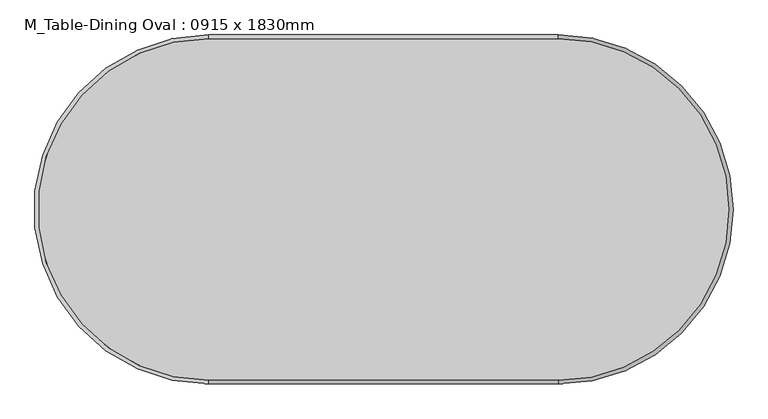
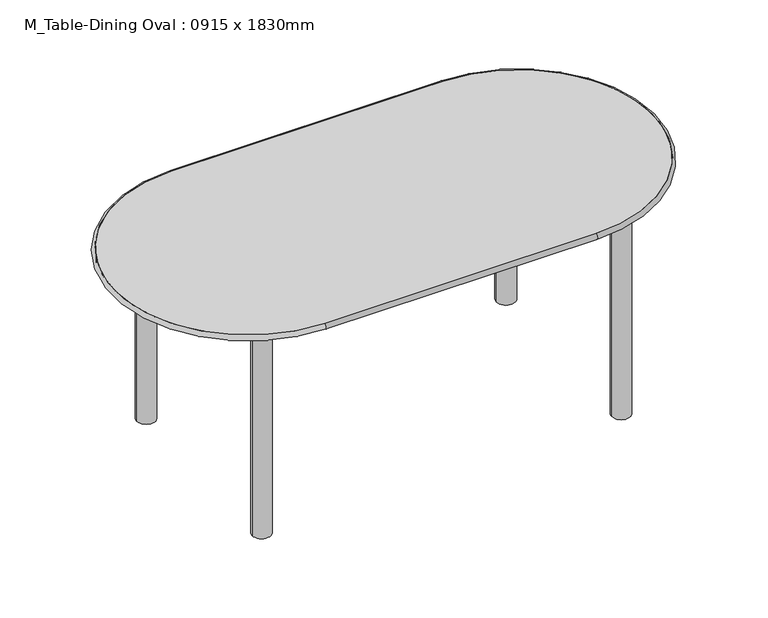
"""IFC4 building model written with IfcOpenShell, lengths in millimetres: furniture geometry, M_Table-Dining Oval : 0915 x 1830mm."""

import ifcopenshell
import ifcopenshell.guid

model = None  # the IFC model being written
_history = None  # IfcOwnerHistory: only IFC2X3 demands one
_inside = {}  # id of a spatial element -> (the spatial element, [elements in it])
_under = {}  # id of a project, library or spatial element -> (it, [spatial elements below it])
_declared = {}  # id of a project -> (the project, [libraries it declares])
_typed = {}  # id of a type object -> (the type object, [elements of that type])
_made_of = {}  # id of a material, layer set ... -> (it, [elements and type objects made of it])


def new_model(schema):
    """Start an empty IFC model of exactly this schema.

    Asked for "IFC4X3", IfcOpenShell would pick the latest addendum, in which some entities
    have other attributes; the version numbers below select the first issue.
    IFC2X3 requires an IfcOwnerHistory on every rooted entity: one is made here for all.
    """
    global model, _history
    if schema == "IFC4X3":
        model = ifcopenshell.file(schema_version=(4, 3, 0, 0))
    else:
        model = ifcopenshell.file(schema=schema)
    _inside.clear()
    _under.clear()
    _declared.clear()
    _typed.clear()
    _made_of.clear()
    _history = None
    if model.schema == "IFC2X3":
        org = make("IfcOrganization", Name="unknown")
        user = make(
            "IfcPersonAndOrganization",
            ThePerson=make("IfcPerson", FamilyName="unknown"),
            TheOrganization=org,
        )
        app = make(
            "IfcApplication",
            ApplicationDeveloper=org,
            Version="unknown",
            ApplicationFullName="unknown",
            ApplicationIdentifier="unknown",
        )
        _history = make(
            "IfcOwnerHistory",
            OwningUser=user,
            OwningApplication=app,
            ChangeAction="ADDED",
            CreationDate=0,
        )
    return model


def make(cls, **values):
    """One entity of the class cls with the attributes given. An attribute that is None is left unset."""
    return model.create_entity(
        cls, **{name: value for name, value in values.items() if value is not None}
    )


def rooted(cls, **values):
    """An entity with a GlobalId (a new one), such as an element, a storey or a relation."""
    return make(cls, GlobalId=ifcopenshell.guid.new(), OwnerHistory=_history, **values)


def si_unit(unit_type, name, prefix=None):
    """IfcSIUnit, for example si_unit("LENGTHUNIT", "METRE", prefix="MILLI")."""
    return make("IfcSIUnit", UnitType=unit_type, Prefix=prefix, Name=name)


def assignment(units):
    """IfcUnitAssignment: the units of a project."""
    return None if units is None else make("IfcUnitAssignment", Units=units)


def point(xyz):
    """IfcCartesianPoint."""
    return None if xyz is None else make("IfcCartesianPoint", Coordinates=xyz)


def direction(xyz):
    """IfcDirection."""
    return None if xyz is None else make("IfcDirection", DirectionRatios=xyz)


def frame(location, z_axis=None, x_axis=None):
    """IfcAxis2Placement3D, a coordinate frame: its origin and axes. An axis left out is left unset."""
    return make(
        "IfcAxis2Placement3D",
        Location=point(location),
        Axis=direction(z_axis),
        RefDirection=direction(x_axis),
    )


def frame_2d(location, x_axis=None):
    """IfcAxis2Placement2D, a coordinate frame in the plane: its origin and x axis."""
    return make(
        "IfcAxis2Placement2D", Location=point(location), RefDirection=direction(x_axis)
    )


def origin():
    """The frame at (0, 0, 0) with its axes left unset."""
    return frame((0.0, 0.0, 0.0))


def origin_with_axes():
    """The frame at (0, 0, 0) with the z axis (0, 0, 1) and the x axis (1, 0, 0) written out."""
    return frame((0.0, 0.0, 0.0), z_axis=(0.0, 0.0, 1.0), x_axis=(1.0, 0.0, 0.0))


def place(relative_to, where):
    """IfcLocalPlacement: puts the frame where relative to a parent placement (None: the world)."""
    return make(
        "IfcLocalPlacement", PlacementRelTo=relative_to, RelativePlacement=where
    )


def context(
    kind, dimensions, precision=None, world=None, true_north=None, identifier=None
):
    """IfcGeometricRepresentationContext, for example the 3D "Model" context."""
    return make(
        "IfcGeometricRepresentationContext",
        ContextIdentifier=identifier,
        ContextType=kind,
        CoordinateSpaceDimension=dimensions,
        Precision=precision,
        WorldCoordinateSystem=world,
        TrueNorth=true_north,
    )


def project(units=None, contexts=None):
    """IfcProject with its units and contexts."""
    return rooted(
        "IfcProject",
        Name="project",
        RepresentationContexts=contexts,
        UnitsInContext=assignment(units),
    )


def spatial(cls, under=None, at=None, **own):
    """A site, building, storey or space (cls), placed at a placement, below another one or the project."""
    s = rooted(cls, ObjectPlacement=at, **own)
    if under is not None:
        _under.setdefault(under.id(), (under, []))[1].append(s)
    return s


def polyline(points):
    """IfcPolyline through the points."""
    return make("IfcPolyline", Points=[point(p) for p in points])


def circle_curve(where, radius):
    """IfcCircle in the frame where."""
    return make("IfcCircle", Position=where, Radius=radius)


def ellipse_curve(where, semi_axis1, semi_axis2):
    """IfcEllipse in the frame where."""
    return make(
        "IfcEllipse", Position=where, SemiAxis1=semi_axis1, SemiAxis2=semi_axis2
    )


def trimmed(basis, trim1, trim2, sense, master):
    """IfcTrimmedCurve: the piece of a basis curve between two trims."""
    return make(
        "IfcTrimmedCurve",
        BasisCurve=basis,
        Trim1=trim1,
        Trim2=trim2,
        SenseAgreement=sense,
        MasterRepresentation=master,
    )


def segment(curve, same_sense, transition):
    """IfcCompositeCurveSegment."""
    return make(
        "IfcCompositeCurveSegment",
        Transition=transition,
        SameSense=same_sense,
        ParentCurve=curve,
    )


def composite_curve(segments, self_intersect=None):
    """IfcCompositeCurve: segments joined end to end."""
    return make("IfcCompositeCurve", Segments=segments, SelfIntersect=self_intersect)


def outline(outer, holes=None, kind="AREA"):
    """IfcArbitraryClosedProfileDef: a profile drawn as a closed curve; with holes, ...WithVoids."""
    if holes is None:
        return make("IfcArbitraryClosedProfileDef", ProfileType=kind, OuterCurve=outer)
    return make(
        "IfcArbitraryProfileDefWithVoids",
        ProfileType=kind,
        OuterCurve=outer,
        InnerCurves=holes,
    )


def extrude(swept, where, along, depth):
    """IfcExtrudedAreaSolid: the profile swept, set in the frame where, extruded along a direction by depth."""
    return make(
        "IfcExtrudedAreaSolid",
        SweptArea=swept,
        Position=where,
        ExtrudedDirection=direction(along),
        Depth=depth,
    )


def shape(context_of_items, identifier, shape_type, items):
    """IfcShapeRepresentation: the items that make up one representation, for example the "Body"."""
    return make(
        "IfcShapeRepresentation",
        ContextOfItems=context_of_items,
        RepresentationIdentifier=identifier,
        RepresentationType=shape_type,
        Items=items,
    )


def source(mapping_origin, context_of_items, identifier, shape_type, items):
    """IfcRepresentationMap: a shape defined once, which mapped items show again and again."""
    return make(
        "IfcRepresentationMap",
        MappingOrigin=mapping_origin,
        MappedRepresentation=shape(context_of_items, identifier, shape_type, items),
    )


def transform(
    local_origin,
    x_axis=None,
    y_axis=None,
    z_axis=None,
    scale=None,
    scale2=None,
    scale3=None,
    uniform=True,
):
    """IfcCartesianTransformationOperator3D, or its non-uniform kind. x_axis, y_axis, z_axis: its Axis1, 2, 3."""
    if uniform:
        return make(
            "IfcCartesianTransformationOperator3D",
            Axis1=direction(x_axis),
            Axis2=direction(y_axis),
            LocalOrigin=point(local_origin),
            Scale=scale,
            Axis3=direction(z_axis),
        )
    return make(
        "IfcCartesianTransformationOperator3DnonUniform",
        Axis1=direction(x_axis),
        Axis2=direction(y_axis),
        LocalOrigin=point(local_origin),
        Scale=scale,
        Axis3=direction(z_axis),
        Scale2=scale2,
        Scale3=scale3,
    )


def mapped(mapping_source, mapping_target):
    """IfcMappedItem: shows the shape of a source again, moved by a transform."""
    return make(
        "IfcMappedItem", MappingSource=mapping_source, MappingTarget=mapping_target
    )


def made_of(thing, what):
    """Note that an element or type object is made of a material, layer set ...; save() writes the relation."""
    if what is not None:
        _made_of.setdefault(what.id(), (what, []))[1].append(thing)
    return thing


def element(
    cls,
    number,
    at=None,
    inside=None,
    cuts=None,
    type_object=None,
    material=None,
    context=None,
    identifier="Body",
    shape_type=None,
    held_by="IfcProductDefinitionShape",
    body=None,
    shapes=None,
    **own,
):
    """One element of the class cls, such as IfcWall. Its Tag is "e" and its number.

    at: its placement. inside: the storey or other place that contains it. cuts: it is an
    opening in that element (IfcRelVoidsElement). A single representation is given by context,
    identifier, shape_type and body (its items); several are given by shapes. held_by: the class
    of the entity that holds the representations. save() writes the other relations.
    """
    e = rooted(cls, Tag="e%d" % number, ObjectPlacement=at, **own)
    if body is not None:
        shapes = [shape(context, identifier, shape_type, body)]
    if shapes is not None:
        e.Representation = make(held_by, Representations=shapes)
    if inside is not None:
        _inside.setdefault(inside.id(), (inside, []))[1].append(e)
    if cuts is not None:
        rooted(
            "IfcRelVoidsElement", RelatingBuildingElement=cuts, RelatedOpeningElement=e
        )
    if type_object is not None:
        _typed.setdefault(type_object.id(), (type_object, []))[1].append(e)
    return made_of(e, material)


def aggregate(whole, parts):
    """IfcRelAggregates: a whole, such as a stair, and the parts it consists of."""
    return rooted("IfcRelAggregates", RelatingObject=whole, RelatedObjects=parts)


def save(model, path):
    """Write the relations noted so far, then the file.

    IfcRelAggregates (storeys below a building ...), IfcRelContainedInSpatialStructure (elements
    in a storey), IfcRelDefinesByType, IfcRelAssociatesMaterial and IfcRelDeclares: one each for
    every whole, place, type object, material and project.
    """
    for whole, parts in _under.values():
        aggregate(whole, parts)
    for where, things in _inside.values():
        rooted(
            "IfcRelContainedInSpatialStructure",
            RelatedElements=things,
            RelatingStructure=where,
        )
    for kind, things in _typed.values():
        rooted("IfcRelDefinesByType", RelatedObjects=things, RelatingType=kind)
    for what, things in _made_of.values():
        rooted("IfcRelAssociatesMaterial", RelatedObjects=things, RelatingMaterial=what)
    for by, libraries in _declared.values():
        rooted("IfcRelDeclares", RelatingContext=by, RelatedDefinitions=libraries)
    model.write(path)


def plane_surface(at):
    """IfcPlane: the flat surface through the origin of the frame at, square to its z axis."""
    return make("IfcPlane", Position=at)


def cylinder_surface(at, radius):
    """IfcCylindricalSurface: all points at the distance radius from the z axis of the frame at."""
    return make("IfcCylindricalSurface", Position=at, Radius=radius)


def revolved_surface(curve, axis_point, axis_direction):
    """IfcSurfaceOfRevolution: the curve turned about the line through axis_point along axis_direction."""
    return make(
        "IfcSurfaceOfRevolution",
        SweptCurve=make("IfcArbitraryOpenProfileDef", ProfileType="CURVE", Curve=curve),
        AxisPosition=make("IfcAxis1Placement", Location=point(axis_point), Axis=direction(axis_direction)),
    )


def advanced_brep(points, edges, surfaces, faces):
    """IfcAdvancedBrep: a solid bounded by faces that lie on surfaces and meet in shared edges.

    An edge is (start, end): straight between two places in points (the first is 0);
    or (start, end, curve); or (start, end, curve, False) where it runs against its curve.
    A face is (place in surfaces, loops), or (place, loops, False) where it looks against
    its surface's normal. A loop lists edges by number (the first is 1), with a minus sign
    where the edge is run from its end to its start. The first loop is the outer one.
    """
    corners = [point(p) for p in points]
    vertices = [make("IfcVertexPoint", VertexGeometry=c) for c in corners]
    made = []
    for start, end, *more in edges:
        made.append(
            make(
                "IfcEdgeCurve",
                EdgeStart=vertices[start],
                EdgeEnd=vertices[end],
                EdgeGeometry=more[0] if more else make("IfcPolyline", Points=[corners[start], corners[end]]),
                SameSense=more[1] if len(more) > 1 else True,
            )
        )
    hull = []
    for where, loops, *sense in faces:
        bounds = []
        for j, loop in enumerate(loops):
            ring = [make("IfcOrientedEdge", EdgeElement=made[abs(k) - 1], Orientation=k > 0) for k in loop]
            bounds.append(
                make(
                    "IfcFaceOuterBound" if j == 0 else "IfcFaceBound",
                    Bound=make("IfcEdgeLoop", EdgeList=ring),
                    Orientation=True,
                )
            )
        hull.append(make("IfcAdvancedFace", Bounds=bounds, FaceSurface=surfaces[where], SameSense=sense[0] if sense else True))
    return make("IfcAdvancedBrep", Outer=make("IfcClosedShell", CfsFaces=hull))


def m_table_dining_oval_0915_x_1830mm_a7cfbe21(model_context):
    return source(origin(), model_context, "Body", "SolidModel", [
        advanced_brep(
        [(-859.3196721, -806.0733607, 762.0), (-859.3196721, -806.0733607, 742.95), (55.6803279, -806.0733607, 742.95), (55.6803279, -806.0733607, 762.0), (55.6803279, 89.8766393, 762.0), (55.6803279, 89.8766393, 742.95), (-859.3196721, 89.8766393, 742.95), (-859.3196721, 89.8766393, 762.0)],
        [
            (0, 1, circle_curve(frame((-859.3196721, -806.0733607, 752.475), z_axis=(1.0, 0.0, 0.0), x_axis=(0.0, 1.0, 0.0)), 9.525)),
            (1, 2),
            (2, 3, circle_curve(frame((55.6803279, -806.0733607, 752.475), z_axis=(-1.0, 0.0, 0.0), x_axis=(0.0, 1.0, 0.0)), 9.525)),
            (3, 0),
            (1, 0),
            (3, 2),
            (4, 3, circle_curve(frame((55.6803279, -358.0983607, 762.0), z_axis=(0.0, 0.0, -1.0), x_axis=(0.0, -1.0, 0.0)), 447.975)),
            (2, 5, circle_curve(frame((55.6803279, -358.0983607, 742.95), z_axis=(0.0, 0.0, 1.0), x_axis=(0.0, -1.0, 0.0)), 447.975)),
            (5, 4, circle_curve(frame((55.6803279, 89.8766393, 752.475), z_axis=(1.0, 0.0, 0.0), x_axis=(0.0, -1.0, 0.0)), 9.525)),
            (4, 5),
            (5, 6),
            (6, 7, circle_curve(frame((-859.3196721, 89.8766393, 752.475), z_axis=(1.0, 0.0, 0.0), x_axis=(0.0, -1.0, 0.0)), 9.525)),
            (7, 4),
            (7, 6),
            (0, 7, circle_curve(frame((-859.3196721, -358.0983607, 762.0), z_axis=(0.0, 0.0, -1.0), x_axis=(0.0, 1.0, 0.0)), 447.975)),
            (6, 1, circle_curve(frame((-859.3196721, -358.0983607, 742.95), z_axis=(0.0, 0.0, 1.0), x_axis=(0.0, 1.0, 0.0)), 447.975)),
        ],
        [
            cylinder_surface(frame((-859.3196721, -806.0733607, 752.475), z_axis=(-1.0, 0.0, 0.0), x_axis=(0.0, 1.0, 0.0)), 9.525),
            plane_surface(frame((-859.3196721, -806.0733607, 762.0), z_axis=(0.0, 1.0, 0.0), x_axis=(1.0, 0.0, 0.0))),
            revolved_surface(trimmed(ellipse_curve(frame((55.6803279, -806.0733607, 752.475), z_axis=(-1.0, 0.0, 0.0), x_axis=(0.0, 1.0, 0.0)), 9.525, 9.525), [point((55.6803279, -806.0733607, 742.95))], [point((55.6803279, -806.0733607, 762.0))], True, "CARTESIAN"), (55.6803279, -358.0983607, 0.0), (0.0, 0.0, 1.0)),
            revolved_surface(polyline([(55.6803279, -806.0733607, 762.0), (55.6803279, -806.0733607, 742.95)]), (55.6803279, -358.0983607, 0.0), (0.0, 0.0, 1.0)),
            cylinder_surface(frame((55.6803279, 89.8766393, 752.475), z_axis=(1.0, 0.0, 0.0), x_axis=(0.0, -1.0, 0.0)), 9.525),
            plane_surface(frame((55.6803279, 89.8766393, 762.0), z_axis=(0.0, -1.0, 0.0), x_axis=(-1.0, 0.0, 0.0))),
            revolved_surface(trimmed(ellipse_curve(frame((-859.3196721, 89.8766393, 752.475), z_axis=(1.0, 0.0, 0.0), x_axis=(0.0, -1.0, 0.0)), 9.525, 9.525), [point((-859.3196721, 89.8766393, 742.95))], [point((-859.3196721, 89.8766393, 762.0))], True, "CARTESIAN"), (-859.3196721, -358.0983607, 0.0), (0.0, 0.0, 1.0)),
            revolved_surface(polyline([(-859.3196721, 89.87663930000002, 762.0), (-859.3196721, 89.87663930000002, 742.95)]), (-859.3196721, -358.0983607, 0.0), (0.0, 0.0, 1.0)),
        ],
        [
            (0, [[1, 2, 3, 4]]),
            (1, [[5, -4, 6, -2]]),
            (2, [[7, -3, 8, 9]]),
            (3, [[-8, -6, -7, 10]]),
            (4, [[-9, 11, 12, 13]]),
            (5, [[-10, -13, 14, -11]]),
            (6, [[15, -12, 16, -1]]),
            (7, [[-16, -14, -15, -5]]),
        ],
    ),
        extrude(outline(composite_curve([segment(trimmed(circle_curve(frame_2d((-1008.5446721, -21.2483607)), 31.75), [point((-1040.2946721, -21.2483607))], [point((-976.7946721, -21.2483607))], False, "CARTESIAN"), True, "CONTINUOUS"), segment(trimmed(circle_curve(frame_2d((-1008.5446721, -21.2483607)), 31.75), [point((-976.7946721, -21.2483607))], [point((-1040.2946721, -21.2483607))], False, "CARTESIAN"), True, "CONTINUOUS")], self_intersect=False)), origin_with_axes(), (0.0, 0.0, 1.0), 742.95),
        extrude(outline(composite_curve([segment(trimmed(circle_curve(frame_2d((-1008.5446721, -694.9483607)), 31.75), [point((-1040.2946721, -694.9483607))], [point((-976.7946721, -694.9483607))], False, "CARTESIAN"), True, "CONTINUOUS"), segment(trimmed(circle_curve(frame_2d((-1008.5446721, -694.9483607)), 31.75), [point((-976.7946721, -694.9483607))], [point((-1040.2946721, -694.9483607))], False, "CARTESIAN"), True, "CONTINUOUS")], self_intersect=False)), origin_with_axes(), (0.0, 0.0, 1.0), 742.95),
        extrude(outline(composite_curve([segment(trimmed(circle_curve(frame_2d((204.9053279, -21.2483607)), 31.75), [point((173.1553279, -21.2483607))], [point((236.6553279, -21.2483607))], False, "CARTESIAN"), True, "CONTINUOUS"), segment(trimmed(circle_curve(frame_2d((204.9053279, -21.2483607)), 31.75), [point((236.6553279, -21.2483607))], [point((173.1553279, -21.2483607))], False, "CARTESIAN"), True, "CONTINUOUS")], self_intersect=False)), origin_with_axes(), (0.0, 0.0, 1.0), 742.95),
        extrude(outline(composite_curve([segment(trimmed(circle_curve(frame_2d((204.9053279, -694.9483607)), 31.75), [point((173.1553279, -694.9483607))], [point((236.6553279, -694.9483607))], False, "CARTESIAN"), True, "CONTINUOUS"), segment(trimmed(circle_curve(frame_2d((204.9053279, -694.9483607)), 31.75), [point((236.6553279, -694.9483607))], [point((173.1553279, -694.9483607))], False, "CARTESIAN"), True, "CONTINUOUS")], self_intersect=False)), origin_with_axes(), (0.0, 0.0, 1.0), 742.95),
        extrude(outline(polyline([(223.9553279, -2.1983607), (223.9553279, -713.9983607), (-1027.5946721, -713.9983607), (-1027.5946721, -2.1983607), (223.9553279, -2.1983607)]), holes=[polyline([(204.9053279, -21.2483607), (-1008.5446721, -21.2483607), (-1008.5446721, -694.9483607), (204.9053279, -694.9483607), (204.9053279, -21.2483607)])]), frame((0.0, 0.0, 692.15), z_axis=(0.0, 0.0, 1.0), x_axis=(1.0, 0.0, 0.0)), (0.0, 0.0, 1.0), 50.8),
        extrude(outline(composite_curve([segment(polyline([(-859.3196721, 89.8766393), (55.6803279, 89.8766393)]), True, "CONTINUOUS"), segment(trimmed(circle_curve(frame_2d((55.6803279, -358.0983607)), 447.975), [point((55.6803279, 89.8766393))], [point((503.6553279, -358.0983607))], False, "CARTESIAN"), True, "CONTINUOUS"), segment(trimmed(circle_curve(frame_2d((55.6803279, -358.0983607)), 447.975), [point((503.6553279, -358.0983607))], [point((55.6803279, -806.0733607))], False, "CARTESIAN"), True, "CONTINUOUS"), segment(polyline([(55.6803279, -806.0733607), (-859.3196721, -806.0733607)]), True, "CONTINUOUS"), segment(trimmed(circle_curve(frame_2d((-859.3196721, -358.0983607)), 447.975), [point((-859.3196721, -806.0733607))], [point((-1307.2946721, -358.0983607))], False, "CARTESIAN"), True, "CONTINUOUS"), segment(trimmed(circle_curve(frame_2d((-859.3196721, -358.0983607)), 447.975), [point((-1307.2946721, -358.0983607))], [point((-859.3196721, 89.8766393))], False, "CARTESIAN"), True, "CONTINUOUS")], self_intersect=False)), frame((0.0, 0.0, 742.95), z_axis=(0.0, 0.0, 1.0), x_axis=(1.0, 0.0, 0.0)), (0.0, 0.0, 1.0), 19.05),
    ])


if __name__ == "__main__":
    model = new_model("IFC4")
    model_context = context("Model", 3, world=origin())
    ifc_project = project(units=[si_unit("LENGTHUNIT", "METRE", prefix="MILLI")], contexts=[model_context])
    site = spatial("IfcSite", under=ifc_project)
    building = spatial("IfcBuilding", under=site)
    placement = place(None, origin())
    m_table_dining_oval_0915_x_1830mm_shape = m_table_dining_oval_0915_x_1830mm_a7cfbe21(model_context)
    element("IfcFurniture", 1, ObjectType="M_Table-Dining Oval : 0915 x 1830mm", at=placement, inside=building, context=model_context, shape_type="MappedRepresentation", body=[
        mapped(m_table_dining_oval_0915_x_1830mm_shape, transform((0.0, 0.0, 0.0), x_axis=(1.0, 0.0, 0.0), y_axis=(0.0, 1.0, 0.0), z_axis=(0.0, 0.0, 1.0))),
    ])
    save(model, "model.ifc")
